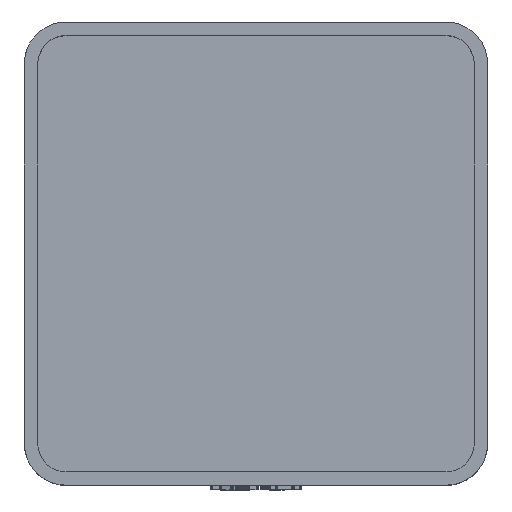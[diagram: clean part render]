
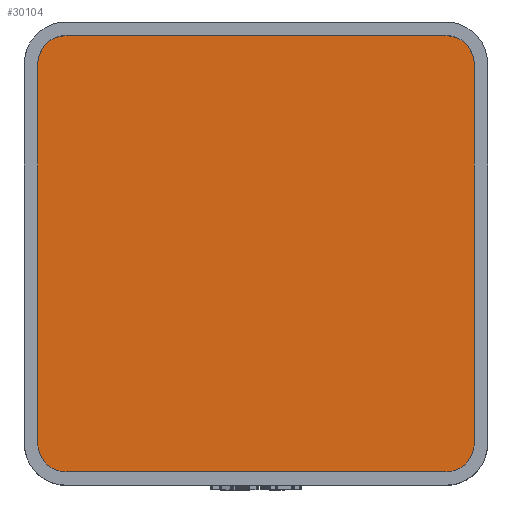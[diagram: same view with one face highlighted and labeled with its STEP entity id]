
A CAD part, top view. The second image highlights one B-rep face of the part: STEP entity #30104.
In plain terms, the highlighted planar face has unit normal (0, 0, 1).
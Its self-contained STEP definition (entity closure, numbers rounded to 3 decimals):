
#1442 = PLANE('',#1443);
#1443 = AXIS2_PLACEMENT_3D('',#1444,#1445,#1446);
#1444 = CARTESIAN_POINT('',(-19.55,-17.,4.75));
#1445 = DIRECTION('',(-1.,0.,0.));
#1446 = DIRECTION('',(0.,1.,0.));
#1474 = CYLINDRICAL_SURFACE('',#1475,2.55);
#1475 = AXIS2_PLACEMENT_3D('',#1476,#1477,#1478);
#1476 = CARTESIAN_POINT('',(-17.,17.,4.75));
#1477 = DIRECTION('',(-0.,-0.,-1.));
#1478 = DIRECTION('',(1.,0.,0.));
#1501 = PLANE('',#1502);
#1502 = AXIS2_PLACEMENT_3D('',#1503,#1504,#1505);
#1503 = CARTESIAN_POINT('',(-17.,19.55,4.75));
#1504 = DIRECTION('',(0.,1.,0.));
#1505 = DIRECTION('',(1.,0.,0.));
#1533 = CYLINDRICAL_SURFACE('',#1534,2.55);
#1534 = AXIS2_PLACEMENT_3D('',#1535,#1536,#1537);
#1535 = CARTESIAN_POINT('',(17.,17.,4.75));
#1536 = DIRECTION('',(-0.,-0.,-1.));
#1537 = DIRECTION('',(1.,0.,0.));
#1560 = PLANE('',#1561);
#1561 = AXIS2_PLACEMENT_3D('',#1562,#1563,#1564);
#1562 = CARTESIAN_POINT('',(19.55,-17.,4.75));
#1563 = DIRECTION('',(-1.,0.,0.));
#1564 = DIRECTION('',(0.,1.,0.));
#1592 = CYLINDRICAL_SURFACE('',#1593,2.55);
#1593 = AXIS2_PLACEMENT_3D('',#1594,#1595,#1596);
#1594 = CARTESIAN_POINT('',(17.,-17.,4.75));
#1595 = DIRECTION('',(-0.,-0.,-1.));
#1596 = DIRECTION('',(1.,0.,0.));
#1619 = PLANE('',#1620);
#1620 = AXIS2_PLACEMENT_3D('',#1621,#1622,#1623);
#1621 = CARTESIAN_POINT('',(-17.,-19.55,4.75));
#1622 = DIRECTION('',(0.,1.,0.));
#1623 = DIRECTION('',(1.,0.,0.));
#1649 = CYLINDRICAL_SURFACE('',#1650,2.55);
#1650 = AXIS2_PLACEMENT_3D('',#1651,#1652,#1653);
#1651 = CARTESIAN_POINT('',(-17.,-17.,4.75));
#1652 = DIRECTION('',(-0.,-0.,-1.));
#1653 = DIRECTION('',(1.,0.,0.));
#11459 = EDGE_CURVE('',#11460,#11462,#11464,.T.);
#11460 = VERTEX_POINT('',#11461);
#11461 = CARTESIAN_POINT('',(-19.55,-17.,4.75));
#11462 = VERTEX_POINT('',#11463);
#11463 = CARTESIAN_POINT('',(-19.55,17.,4.75));
#11464 = SURFACE_CURVE('',#11465,(#11469,#11476),.PCURVE_S1.);
#11465 = LINE('',#11466,#11467);
#11466 = CARTESIAN_POINT('',(-19.55,0.,4.75));
#11467 = VECTOR('',#11468,1.);
#11468 = DIRECTION('',(0.,1.,0.));
#11469 = PCURVE('',#1442,#11470);
#11470 = DEFINITIONAL_REPRESENTATION('',(#11471),#11475);
#11471 = LINE('',#11472,#11473);
#11472 = CARTESIAN_POINT('',(17.,0.));
#11473 = VECTOR('',#11474,1.);
#11474 = DIRECTION('',(1.,0.));
#11475 = ( GEOMETRIC_REPRESENTATION_CONTEXT(2) 
PARAMETRIC_REPRESENTATION_CONTEXT() REPRESENTATION_CONTEXT('2D SPACE',''
  ) );
#11476 = PCURVE('',#11477,#11482);
#11477 = PLANE('',#11478);
#11478 = AXIS2_PLACEMENT_3D('',#11479,#11480,#11481);
#11479 = CARTESIAN_POINT('',(0.,0.,4.75
    ));
#11480 = DIRECTION('',(0.,0.,1.));
#11481 = DIRECTION('',(1.,0.,-0.));
#11482 = DEFINITIONAL_REPRESENTATION('',(#11483),#11487);
#11483 = LINE('',#11484,#11485);
#11484 = CARTESIAN_POINT('',(-19.55,0.));
#11485 = VECTOR('',#11486,1.);
#11486 = DIRECTION('',(0.,1.));
#11487 = ( GEOMETRIC_REPRESENTATION_CONTEXT(2) 
PARAMETRIC_REPRESENTATION_CONTEXT() REPRESENTATION_CONTEXT('2D SPACE',''
  ) );
#11535 = EDGE_CURVE('',#11460,#11536,#11538,.T.);
#11536 = VERTEX_POINT('',#11537);
#11537 = CARTESIAN_POINT('',(-17.,-19.55,4.75));
#11538 = SURFACE_CURVE('',#11539,(#11544,#11551),.PCURVE_S1.);
#11539 = CIRCLE('',#11540,2.55);
#11540 = AXIS2_PLACEMENT_3D('',#11541,#11542,#11543);
#11541 = CARTESIAN_POINT('',(-17.,-17.,4.75));
#11542 = DIRECTION('',(0.,0.,1.));
#11543 = DIRECTION('',(1.,0.,0.));
#11544 = PCURVE('',#1649,#11545);
#11545 = DEFINITIONAL_REPRESENTATION('',(#11546),#11550);
#11546 = LINE('',#11547,#11548);
#11547 = CARTESIAN_POINT('',(-0.,0.));
#11548 = VECTOR('',#11549,1.);
#11549 = DIRECTION('',(-1.,0.));
#11550 = ( GEOMETRIC_REPRESENTATION_CONTEXT(2) 
PARAMETRIC_REPRESENTATION_CONTEXT() REPRESENTATION_CONTEXT('2D SPACE',''
  ) );
#11551 = PCURVE('',#11477,#11552);
#11552 = DEFINITIONAL_REPRESENTATION('',(#11553),#11557);
#11553 = CIRCLE('',#11554,2.55);
#11554 = AXIS2_PLACEMENT_2D('',#11555,#11556);
#11555 = CARTESIAN_POINT('',(-17.,-17.));
#11556 = DIRECTION('',(1.,0.));
#11557 = ( GEOMETRIC_REPRESENTATION_CONTEXT(2) 
PARAMETRIC_REPRESENTATION_CONTEXT() REPRESENTATION_CONTEXT('2D SPACE',''
  ) );
#11585 = EDGE_CURVE('',#11536,#11586,#11588,.T.);
#11586 = VERTEX_POINT('',#11587);
#11587 = CARTESIAN_POINT('',(17.,-19.55,4.75));
#11588 = SURFACE_CURVE('',#11589,(#11593,#11600),.PCURVE_S1.);
#11589 = LINE('',#11590,#11591);
#11590 = CARTESIAN_POINT('',(0.,-19.55,4.75));
#11591 = VECTOR('',#11592,1.);
#11592 = DIRECTION('',(1.,0.,0.));
#11593 = PCURVE('',#1619,#11594);
#11594 = DEFINITIONAL_REPRESENTATION('',(#11595),#11599);
#11595 = LINE('',#11596,#11597);
#11596 = CARTESIAN_POINT('',(17.,0.));
#11597 = VECTOR('',#11598,1.);
#11598 = DIRECTION('',(1.,0.));
#11599 = ( GEOMETRIC_REPRESENTATION_CONTEXT(2) 
PARAMETRIC_REPRESENTATION_CONTEXT() REPRESENTATION_CONTEXT('2D SPACE',''
  ) );
#11600 = PCURVE('',#11477,#11601);
#11601 = DEFINITIONAL_REPRESENTATION('',(#11602),#11606);
#11602 = LINE('',#11603,#11604);
#11603 = CARTESIAN_POINT('',(0.,-19.55));
#11604 = VECTOR('',#11605,1.);
#11605 = DIRECTION('',(1.,0.));
#11606 = ( GEOMETRIC_REPRESENTATION_CONTEXT(2) 
PARAMETRIC_REPRESENTATION_CONTEXT() REPRESENTATION_CONTEXT('2D SPACE',''
  ) );
#11634 = EDGE_CURVE('',#11586,#11635,#11637,.T.);
#11635 = VERTEX_POINT('',#11636);
#11636 = CARTESIAN_POINT('',(19.55,-17.,4.75));
#11637 = SURFACE_CURVE('',#11638,(#11643,#11650),.PCURVE_S1.);
#11638 = CIRCLE('',#11639,2.55);
#11639 = AXIS2_PLACEMENT_3D('',#11640,#11641,#11642);
#11640 = CARTESIAN_POINT('',(17.,-17.,4.75));
#11641 = DIRECTION('',(0.,0.,1.));
#11642 = DIRECTION('',(1.,0.,0.));
#11643 = PCURVE('',#1592,#11644);
#11644 = DEFINITIONAL_REPRESENTATION('',(#11645),#11649);
#11645 = LINE('',#11646,#11647);
#11646 = CARTESIAN_POINT('',(-0.,0.));
#11647 = VECTOR('',#11648,1.);
#11648 = DIRECTION('',(-1.,0.));
#11649 = ( GEOMETRIC_REPRESENTATION_CONTEXT(2) 
PARAMETRIC_REPRESENTATION_CONTEXT() REPRESENTATION_CONTEXT('2D SPACE',''
  ) );
#11650 = PCURVE('',#11477,#11651);
#11651 = DEFINITIONAL_REPRESENTATION('',(#11652),#11656);
#11652 = CIRCLE('',#11653,2.55);
#11653 = AXIS2_PLACEMENT_2D('',#11654,#11655);
#11654 = CARTESIAN_POINT('',(17.,-17.));
#11655 = DIRECTION('',(1.,0.));
#11656 = ( GEOMETRIC_REPRESENTATION_CONTEXT(2) 
PARAMETRIC_REPRESENTATION_CONTEXT() REPRESENTATION_CONTEXT('2D SPACE',''
  ) );
#11684 = EDGE_CURVE('',#11635,#11685,#11687,.T.);
#11685 = VERTEX_POINT('',#11686);
#11686 = CARTESIAN_POINT('',(19.55,17.,4.75));
#11687 = SURFACE_CURVE('',#11688,(#11692,#11699),.PCURVE_S1.);
#11688 = LINE('',#11689,#11690);
#11689 = CARTESIAN_POINT('',(19.55,0.,4.75));
#11690 = VECTOR('',#11691,1.);
#11691 = DIRECTION('',(0.,1.,0.));
#11692 = PCURVE('',#1560,#11693);
#11693 = DEFINITIONAL_REPRESENTATION('',(#11694),#11698);
#11694 = LINE('',#11695,#11696);
#11695 = CARTESIAN_POINT('',(17.,0.));
#11696 = VECTOR('',#11697,1.);
#11697 = DIRECTION('',(1.,0.));
#11698 = ( GEOMETRIC_REPRESENTATION_CONTEXT(2) 
PARAMETRIC_REPRESENTATION_CONTEXT() REPRESENTATION_CONTEXT('2D SPACE',''
  ) );
#11699 = PCURVE('',#11477,#11700);
#11700 = DEFINITIONAL_REPRESENTATION('',(#11701),#11705);
#11701 = LINE('',#11702,#11703);
#11702 = CARTESIAN_POINT('',(19.55,0.));
#11703 = VECTOR('',#11704,1.);
#11704 = DIRECTION('',(0.,1.));
#11705 = ( GEOMETRIC_REPRESENTATION_CONTEXT(2) 
PARAMETRIC_REPRESENTATION_CONTEXT() REPRESENTATION_CONTEXT('2D SPACE',''
  ) );
#11733 = EDGE_CURVE('',#11685,#11734,#11736,.T.);
#11734 = VERTEX_POINT('',#11735);
#11735 = CARTESIAN_POINT('',(17.,19.55,4.75));
#11736 = SURFACE_CURVE('',#11737,(#11742,#11749),.PCURVE_S1.);
#11737 = CIRCLE('',#11738,2.55);
#11738 = AXIS2_PLACEMENT_3D('',#11739,#11740,#11741);
#11739 = CARTESIAN_POINT('',(17.,17.,4.75));
#11740 = DIRECTION('',(0.,0.,1.));
#11741 = DIRECTION('',(1.,0.,0.));
#11742 = PCURVE('',#1533,#11743);
#11743 = DEFINITIONAL_REPRESENTATION('',(#11744),#11748);
#11744 = LINE('',#11745,#11746);
#11745 = CARTESIAN_POINT('',(-0.,0.));
#11746 = VECTOR('',#11747,1.);
#11747 = DIRECTION('',(-1.,0.));
#11748 = ( GEOMETRIC_REPRESENTATION_CONTEXT(2) 
PARAMETRIC_REPRESENTATION_CONTEXT() REPRESENTATION_CONTEXT('2D SPACE',''
  ) );
#11749 = PCURVE('',#11477,#11750);
#11750 = DEFINITIONAL_REPRESENTATION('',(#11751),#11755);
#11751 = CIRCLE('',#11752,2.55);
#11752 = AXIS2_PLACEMENT_2D('',#11753,#11754);
#11753 = CARTESIAN_POINT('',(17.,17.));
#11754 = DIRECTION('',(1.,0.));
#11755 = ( GEOMETRIC_REPRESENTATION_CONTEXT(2) 
PARAMETRIC_REPRESENTATION_CONTEXT() REPRESENTATION_CONTEXT('2D SPACE',''
  ) );
#11783 = EDGE_CURVE('',#11784,#11734,#11786,.T.);
#11784 = VERTEX_POINT('',#11785);
#11785 = CARTESIAN_POINT('',(-17.,19.55,4.75));
#11786 = SURFACE_CURVE('',#11787,(#11791,#11798),.PCURVE_S1.);
#11787 = LINE('',#11788,#11789);
#11788 = CARTESIAN_POINT('',(0.,19.55,4.75));
#11789 = VECTOR('',#11790,1.);
#11790 = DIRECTION('',(1.,0.,0.));
#11791 = PCURVE('',#1501,#11792);
#11792 = DEFINITIONAL_REPRESENTATION('',(#11793),#11797);
#11793 = LINE('',#11794,#11795);
#11794 = CARTESIAN_POINT('',(17.,0.));
#11795 = VECTOR('',#11796,1.);
#11796 = DIRECTION('',(1.,0.));
#11797 = ( GEOMETRIC_REPRESENTATION_CONTEXT(2) 
PARAMETRIC_REPRESENTATION_CONTEXT() REPRESENTATION_CONTEXT('2D SPACE',''
  ) );
#11798 = PCURVE('',#11477,#11799);
#11799 = DEFINITIONAL_REPRESENTATION('',(#11800),#11804);
#11800 = LINE('',#11801,#11802);
#11801 = CARTESIAN_POINT('',(0.,19.55));
#11802 = VECTOR('',#11803,1.);
#11803 = DIRECTION('',(1.,0.));
#11804 = ( GEOMETRIC_REPRESENTATION_CONTEXT(2) 
PARAMETRIC_REPRESENTATION_CONTEXT() REPRESENTATION_CONTEXT('2D SPACE',''
  ) );
#11832 = EDGE_CURVE('',#11784,#11462,#11833,.T.);
#11833 = SURFACE_CURVE('',#11834,(#11839,#11846),.PCURVE_S1.);
#11834 = CIRCLE('',#11835,2.55);
#11835 = AXIS2_PLACEMENT_3D('',#11836,#11837,#11838);
#11836 = CARTESIAN_POINT('',(-17.,17.,4.75));
#11837 = DIRECTION('',(0.,0.,1.));
#11838 = DIRECTION('',(1.,0.,0.));
#11839 = PCURVE('',#1474,#11840);
#11840 = DEFINITIONAL_REPRESENTATION('',(#11841),#11845);
#11841 = LINE('',#11842,#11843);
#11842 = CARTESIAN_POINT('',(-0.,0.));
#11843 = VECTOR('',#11844,1.);
#11844 = DIRECTION('',(-1.,0.));
#11845 = ( GEOMETRIC_REPRESENTATION_CONTEXT(2) 
PARAMETRIC_REPRESENTATION_CONTEXT() REPRESENTATION_CONTEXT('2D SPACE',''
  ) );
#11846 = PCURVE('',#11477,#11847);
#11847 = DEFINITIONAL_REPRESENTATION('',(#11848),#11852);
#11848 = CIRCLE('',#11849,2.55);
#11849 = AXIS2_PLACEMENT_2D('',#11850,#11851);
#11850 = CARTESIAN_POINT('',(-17.,17.));
#11851 = DIRECTION('',(1.,0.));
#11852 = ( GEOMETRIC_REPRESENTATION_CONTEXT(2) 
PARAMETRIC_REPRESENTATION_CONTEXT() REPRESENTATION_CONTEXT('2D SPACE',''
  ) );
#30104 = ADVANCED_FACE('',(#30105),#11477,.T.);
#30105 = FACE_BOUND('',#30106,.T.);
#30106 = EDGE_LOOP('',(#30107,#30108,#30109,#30110,#30111,#30112,#30113,
    #30114));
#30107 = ORIENTED_EDGE('',*,*,#11459,.F.);
#30108 = ORIENTED_EDGE('',*,*,#11535,.T.);
#30109 = ORIENTED_EDGE('',*,*,#11585,.T.);
#30110 = ORIENTED_EDGE('',*,*,#11634,.T.);
#30111 = ORIENTED_EDGE('',*,*,#11684,.T.);
#30112 = ORIENTED_EDGE('',*,*,#11733,.T.);
#30113 = ORIENTED_EDGE('',*,*,#11783,.F.);
#30114 = ORIENTED_EDGE('',*,*,#11832,.T.);
